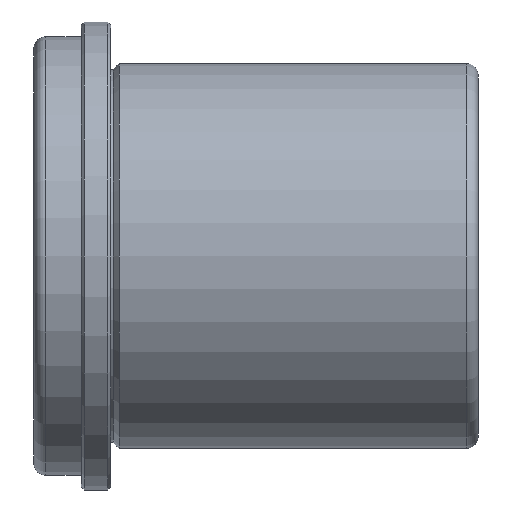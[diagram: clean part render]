
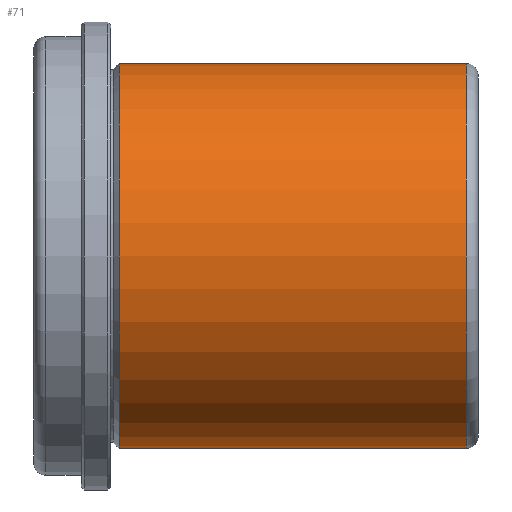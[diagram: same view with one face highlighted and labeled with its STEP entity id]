
A CAD part, front view. The second image highlights one B-rep face of the part: STEP entity #71.
In plain terms, the highlighted cylindrical face has radius 32.5 mm (diameter 65 mm), a full revolution.
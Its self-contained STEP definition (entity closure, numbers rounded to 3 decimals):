
#71 = ADVANCED_FACE( '', ( #154, #155, #156 ), #157, .T. );
#154 = FACE_OUTER_BOUND( '', #239, .T. );
#155 = FACE_BOUND( '', #240, .T. );
#156 = FACE_OUTER_BOUND( '', #241, .T. );
#157 = CYLINDRICAL_SURFACE( '', #242, 32.5 );
#239 = EDGE_LOOP( '', ( #346 ) );
#240 = EDGE_LOOP( '', ( #347 ) );
#241 = EDGE_LOOP( '', ( #348 ) );
#242 = AXIS2_PLACEMENT_3D( '', #349, #350, #351 );
#346 = ORIENTED_EDGE( '', *, *, #411, .T. );
#347 = ORIENTED_EDGE( '', *, *, #400, .T. );
#348 = ORIENTED_EDGE( '', *, *, #384, .F. );
#349 = CARTESIAN_POINT( '', ( 62., 0., 0. ) );
#350 = DIRECTION( '', ( -1., 0., 0. ) );
#351 = DIRECTION( '', ( 0., 0., -1. ) );
#384 = EDGE_CURVE( '', #427, #427, #428, .T. );
#400 = EDGE_CURVE( '', #453, #453, #454, .T. );
#411 = EDGE_CURVE( '', #469, #469, #470, .T. );
#427 = VERTEX_POINT( '', #486 );
#428 = CIRCLE( '', #487, 32.5 );
#453 = VERTEX_POINT( '', #577 );
#454 = B_SPLINE_CURVE_WITH_KNOTS( '', 3, ( #578, #579, #580, #581, #582, #583, #584, #585, #586, #587, #588, #589, #590, #591, #592, #593, #594, #595, #596, #597, #598, #599, #600, #601, #602, #603, #604, #605, #606, #607, #608, #609, #610, #611, #612, #613, #614, #615, #616, #617, #618, #619, #620, #621, #622, #623, #624, #625, #626, #627, #628, #629, #630, #631, #632, #633, #634, #635, #636, #637, #638, #639, #640, #641, #642, #643 ), .UNSPECIFIED., .T., .F., ( 2, 2, 2, 2, 2, 2, 2, 2, 2, 2, 2, 2, 2, 2, 2, 2, 2, 2, 2, 2, 2, 2, 2, 2, 2, 2, 2, 2, 2, 2, 2, 2, 2, 2, 2 ), ( -0.001, 0., 0.001, 0.002, 0.002, 0.003, 0.004, 0.005, 0.005, 0.006, 0.007, 0.008, 0.009, 0.009, 0.01, 0.011, 0.012, 0.013, 0.013, 0.014, 0.015, 0.016, 0.016, 0.017, 0.018, 0.019, 0.02, 0.02, 0.021, 0.022, 0.023, 0.023, 0.024, 0.025, 0.026 ), .UNSPECIFIED. );
#469 = VERTEX_POINT( '', #658 );
#470 = CIRCLE( '', #659, 32.5 );
#486 = CARTESIAN_POINT( '', ( 60., 0., -32.5 ) );
#487 = AXIS2_PLACEMENT_3D( '', #676, #677, #678 );
#577 = CARTESIAN_POINT( '', ( 19., 32.253, -4. ) );
#578 = CARTESIAN_POINT( '', ( 18.735, 32.253, -4. ) );
#579 = CARTESIAN_POINT( '', ( 19.265, 32.253, -4. ) );
#580 = CARTESIAN_POINT( '', ( 19.525, 32.256, -3.974 ) );
#581 = CARTESIAN_POINT( '', ( 20.036, 32.269, -3.872 ) );
#582 = CARTESIAN_POINT( '', ( 20.29, 32.278, -3.795 ) );
#583 = CARTESIAN_POINT( '', ( 20.775, 32.301, -3.594 ) );
#584 = CARTESIAN_POINT( '', ( 21.004, 32.314, -3.472 ) );
#585 = CARTESIAN_POINT( '', ( 21.439, 32.344, -3.181 ) );
#586 = CARTESIAN_POINT( '', ( 21.644, 32.361, -3.012 ) );
#587 = CARTESIAN_POINT( '', ( 22.013, 32.393, -2.644 ) );
#588 = CARTESIAN_POINT( '', ( 22.179, 32.409, -2.443 ) );
#589 = CARTESIAN_POINT( '', ( 22.471, 32.439, -2.005 ) );
#590 = CARTESIAN_POINT( '', ( 22.595, 32.452, -1.773 ) );
#591 = CARTESIAN_POINT( '', ( 22.795, 32.475, -1.292 ) );
#592 = CARTESIAN_POINT( '', ( 22.872, 32.484, -1.039 ) );
#593 = CARTESIAN_POINT( '', ( 22.974, 32.497, -0.523 ) );
#594 = CARTESIAN_POINT( '', ( 23., 32.5, -0.263 ) );
#595 = CARTESIAN_POINT( '', ( 23., 32.5, 0.259 ) );
#596 = CARTESIAN_POINT( '', ( 22.974, 32.497, 0.524 ) );
#597 = CARTESIAN_POINT( '', ( 22.872, 32.484, 1.037 ) );
#598 = CARTESIAN_POINT( '', ( 22.796, 32.475, 1.287 ) );
#599 = CARTESIAN_POINT( '', ( 22.596, 32.453, 1.771 ) );
#600 = CARTESIAN_POINT( '', ( 22.471, 32.439, 2.005 ) );
#601 = CARTESIAN_POINT( '', ( 22.181, 32.409, 2.439 ) );
#602 = CARTESIAN_POINT( '', ( 22.016, 32.393, 2.641 ) );
#603 = CARTESIAN_POINT( '', ( 21.643, 32.36, 3.014 ) );
#604 = CARTESIAN_POINT( '', ( 21.441, 32.344, 3.179 ) );
#605 = CARTESIAN_POINT( '', ( 21.008, 32.315, 3.469 ) );
#606 = CARTESIAN_POINT( '', ( 20.774, 32.301, 3.594 ) );
#607 = CARTESIAN_POINT( '', ( 20.29, 32.278, 3.795 ) );
#608 = CARTESIAN_POINT( '', ( 20.041, 32.269, 3.871 ) );
#609 = CARTESIAN_POINT( '', ( 19.528, 32.256, 3.974 ) );
#610 = CARTESIAN_POINT( '', ( 19.263, 32.253, 4. ) );
#611 = CARTESIAN_POINT( '', ( 18.74, 32.253, 4. ) );
#612 = CARTESIAN_POINT( '', ( 18.481, 32.256, 3.975 ) );
#613 = CARTESIAN_POINT( '', ( 17.964, 32.269, 3.872 ) );
#614 = CARTESIAN_POINT( '', ( 17.712, 32.278, 3.796 ) );
#615 = CARTESIAN_POINT( '', ( 17.23, 32.301, 3.597 ) );
#616 = CARTESIAN_POINT( '', ( 16.997, 32.314, 3.473 ) );
#617 = CARTESIAN_POINT( '', ( 16.56, 32.344, 3.181 ) );
#618 = CARTESIAN_POINT( '', ( 16.359, 32.36, 3.015 ) );
#619 = CARTESIAN_POINT( '', ( 15.99, 32.393, 2.647 ) );
#620 = CARTESIAN_POINT( '', ( 15.821, 32.409, 2.441 ) );
#621 = CARTESIAN_POINT( '', ( 15.53, 32.439, 2.007 ) );
#622 = CARTESIAN_POINT( '', ( 15.407, 32.452, 1.778 ) );
#623 = CARTESIAN_POINT( '', ( 15.206, 32.475, 1.294 ) );
#624 = CARTESIAN_POINT( '', ( 15.129, 32.484, 1.04 ) );
#625 = CARTESIAN_POINT( '', ( 15.026, 32.497, 0.528 ) );
#626 = CARTESIAN_POINT( '', ( 15., 32.5, 0.268 ) );
#627 = CARTESIAN_POINT( '', ( 15., 32.5, -0.261 ) );
#628 = CARTESIAN_POINT( '', ( 15.026, 32.497, -0.521 ) );
#629 = CARTESIAN_POINT( '', ( 15.127, 32.485, -1.033 ) );
#630 = CARTESIAN_POINT( '', ( 15.204, 32.475, -1.287 ) );
#631 = CARTESIAN_POINT( '', ( 15.404, 32.453, -1.771 ) );
#632 = CARTESIAN_POINT( '', ( 15.527, 32.439, -2.001 ) );
#633 = CARTESIAN_POINT( '', ( 15.817, 32.409, -2.436 ) );
#634 = CARTESIAN_POINT( '', ( 15.985, 32.393, -2.642 ) );
#635 = CARTESIAN_POINT( '', ( 16.354, 32.361, -3.011 ) );
#636 = CARTESIAN_POINT( '', ( 16.555, 32.345, -3.176 ) );
#637 = CARTESIAN_POINT( '', ( 16.992, 32.315, -3.469 ) );
#638 = CARTESIAN_POINT( '', ( 17.224, 32.301, -3.593 ) );
#639 = CARTESIAN_POINT( '', ( 17.705, 32.278, -3.793 ) );
#640 = CARTESIAN_POINT( '', ( 17.957, 32.269, -3.871 ) );
#641 = CARTESIAN_POINT( '', ( 18.474, 32.256, -3.974 ) );
#642 = CARTESIAN_POINT( '', ( 18.735, 32.253, -4. ) );
#643 = CARTESIAN_POINT( '', ( 19.265, 32.253, -4. ) );
#658 = CARTESIAN_POINT( '', ( 1.414, 0., -32.5 ) );
#659 = AXIS2_PLACEMENT_3D( '', #715, #716, #717 );
#676 = CARTESIAN_POINT( '', ( 60., 0., 0. ) );
#677 = DIRECTION( '', ( 1., 0., 0. ) );
#678 = DIRECTION( '', ( 0., 0., -1. ) );
#715 = CARTESIAN_POINT( '', ( 1.414, 0., 0. ) );
#716 = DIRECTION( '', ( 1., 0., 0. ) );
#717 = DIRECTION( '', ( 0., 0., -1. ) );
